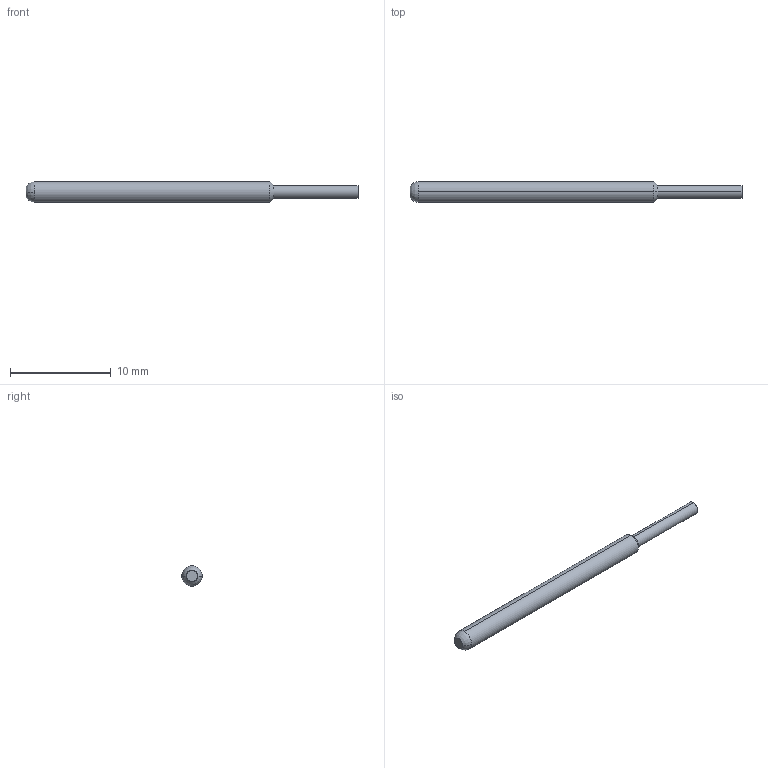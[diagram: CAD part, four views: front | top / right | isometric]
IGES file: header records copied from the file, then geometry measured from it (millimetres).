
Start section: SolidWorks IGES file using analytic representation for surfaces
Global section: file name: C:\Documents and Settings\mrumschlag\Desktop\changes\new\test\EPA-3C.IGS; native system: SolidWorks 2008; preprocessor: SolidWorks 2008; author: mrumschlag; date: 110414.162807; units: inch
Bounding box: 33.02 x 2.03 x 2.03 mm (x, y, z)
Surface area: 193.4 mm2 (no closed solid volume)
Topology: 0 solids, 0 shells, 10 faces, 68 edges, 68 vertices
Faces by surface type: revolution 8, bspline 2
